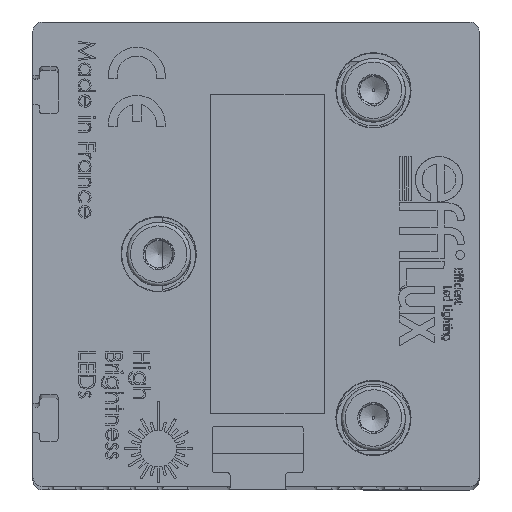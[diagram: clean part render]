
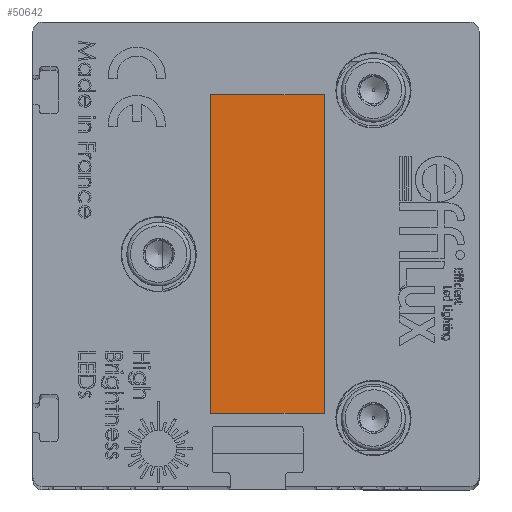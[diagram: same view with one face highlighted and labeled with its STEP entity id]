
A CAD part, top view. The second image highlights one B-rep face of the part: STEP entity #50642.
In plain terms, the highlighted planar face has unit normal (0, 0, 1).
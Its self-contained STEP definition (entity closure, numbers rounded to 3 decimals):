
#3876 = ORIENTED_EDGE ( 'NONE', *, *, #32664, .T. ) ;
#4117 = VERTEX_POINT ( 'NONE', #52731 ) ;
#6408 = CARTESIAN_POINT ( 'NONE',  ( 7.5, 17.5, 234.9 ) ) ;
#11956 = EDGE_CURVE ( 'NONE', #4117, #98154, #86074, .T. ) ;
#13748 = VERTEX_POINT ( 'NONE', #89263 ) ;
#14550 = CARTESIAN_POINT ( 'NONE',  ( 7.5, -17.5, 234.9 ) ) ;
#22234 = CARTESIAN_POINT ( 'NONE',  ( 7.5, -17.5, 234.9 ) ) ;
#24288 = VECTOR ( 'NONE', #45360, 1000. ) ;
#26596 = EDGE_LOOP ( 'NONE', ( #96091, #113421, #3876, #111199 ) ) ;
#27998 = EDGE_CURVE ( 'NONE', #98154, #13748, #99753, .T. ) ;
#32664 = EDGE_CURVE ( 'NONE', #13748, #106501, #81685, .T. ) ;
#35574 = EDGE_CURVE ( 'NONE', #106501, #4117, #52538, .T. ) ;
#40142 = VECTOR ( 'NONE', #100806, 1000. ) ;
#45360 = DIRECTION ( 'NONE',  ( 0., 1., 0. ) ) ;
#49930 = AXIS2_PLACEMENT_3D ( 'NONE', #51378, #101091, #69423 ) ;
#50642 = ADVANCED_FACE ( 'NONE', ( #60870 ), #75585, .T. ) ;
#51378 = CARTESIAN_POINT ( 'NONE',  ( -5., 17.5, 234.9 ) ) ;
#52538 = LINE ( 'NONE', #6408, #24288 ) ;
#52731 = CARTESIAN_POINT ( 'NONE',  ( 7.5, 17.5, 234.9 ) ) ;
#56741 = DIRECTION ( 'NONE',  ( -1., 0., 0. ) ) ;
#60850 = VECTOR ( 'NONE', #56741, 1000. ) ;
#60870 = FACE_OUTER_BOUND ( 'NONE', #26596, .T. ) ;
#65225 = CARTESIAN_POINT ( 'NONE',  ( -5., 17.5, 234.9 ) ) ;
#69423 = DIRECTION ( 'NONE',  ( 1., 0., 0. ) ) ;
#71533 = VECTOR ( 'NONE', #93315, 1000. ) ;
#75585 = PLANE ( 'NONE',  #49930 ) ;
#81685 = LINE ( 'NONE', #14550, #40142 ) ;
#83764 = CARTESIAN_POINT ( 'NONE',  ( -5., 17.5, 234.9 ) ) ;
#86074 = LINE ( 'NONE', #113098, #60850 ) ;
#89263 = CARTESIAN_POINT ( 'NONE',  ( -5., -17.5, 234.9 ) ) ;
#93315 = DIRECTION ( 'NONE',  ( 0., -1., 0. ) ) ;
#96091 = ORIENTED_EDGE ( 'NONE', *, *, #11956, .T. ) ;
#98154 = VERTEX_POINT ( 'NONE', #65225 ) ;
#99753 = LINE ( 'NONE', #83764, #71533 ) ;
#100806 = DIRECTION ( 'NONE',  ( 1., 0., 0. ) ) ;
#101091 = DIRECTION ( 'NONE',  ( 0., 0., 1. ) ) ;
#106501 = VERTEX_POINT ( 'NONE', #22234 ) ;
#111199 = ORIENTED_EDGE ( 'NONE', *, *, #35574, .T. ) ;
#113098 = CARTESIAN_POINT ( 'NONE',  ( 7.5, 17.5, 234.9 ) ) ;
#113421 = ORIENTED_EDGE ( 'NONE', *, *, #27998, .T. ) ;
